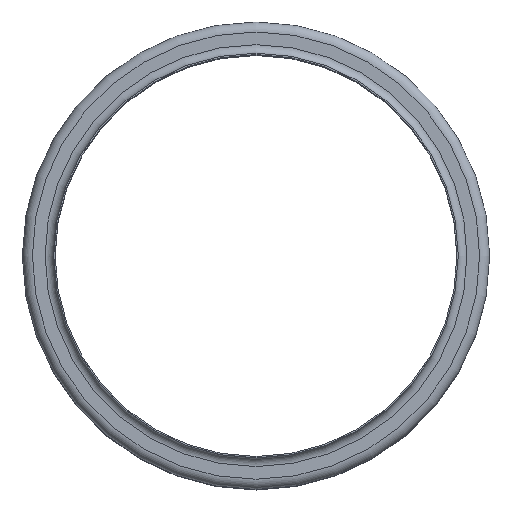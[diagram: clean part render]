
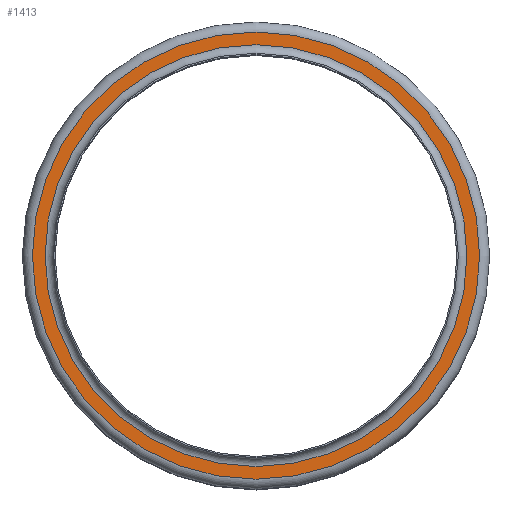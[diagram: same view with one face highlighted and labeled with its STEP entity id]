
A CAD part, top view. The second image highlights one B-rep face of the part: STEP entity #1413.
In plain terms, the highlighted planar face has unit normal (0, 0, 1).
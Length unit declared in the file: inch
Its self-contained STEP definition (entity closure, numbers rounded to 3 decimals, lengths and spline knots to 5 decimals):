
#127=FACE_BOUND('',#381,.T.);
#226=FACE_OUTER_BOUND('',#380,.T.);
#380=EDGE_LOOP('',(#1105));
#381=EDGE_LOOP('',(#1106));
#542=CIRCLE('',#1682,5.643);
#543=CIRCLE('',#1684,5.982);
#655=VERTEX_POINT('',#2578);
#656=VERTEX_POINT('',#2582);
#808=EDGE_CURVE('',#655,#655,#542,.T.);
#809=EDGE_CURVE('',#656,#656,#543,.T.);
#1105=ORIENTED_EDGE('',*,*,#809,.F.);
#1106=ORIENTED_EDGE('',*,*,#808,.T.);
#1203=PLANE('',#1683);
#1413=ADVANCED_FACE('',(#226,#127),#1203,.T.);
#1682=AXIS2_PLACEMENT_3D('',#2580,#2178,#2179);
#1683=AXIS2_PLACEMENT_3D('',#2581,#2180,#2181);
#1684=AXIS2_PLACEMENT_3D('',#2583,#2182,#2183);
#2178=DIRECTION('center_axis',(0.,0.,-1.));
#2179=DIRECTION('ref_axis',(1.,0.,0.));
#2180=DIRECTION('center_axis',(0.,0.,1.));
#2181=DIRECTION('ref_axis',(1.,0.,0.));
#2182=DIRECTION('center_axis',(0.,0.,-1.));
#2183=DIRECTION('ref_axis',(1.,0.,0.));
#2578=CARTESIAN_POINT('',(5.643,0.,-0.232));
#2580=CARTESIAN_POINT('Origin',(0.,0.,-0.232));
#2581=CARTESIAN_POINT('Origin',(0.,5.982,-0.232));
#2582=CARTESIAN_POINT('',(5.982,0.,-0.232));
#2583=CARTESIAN_POINT('Origin',(0.,0.,-0.232));
